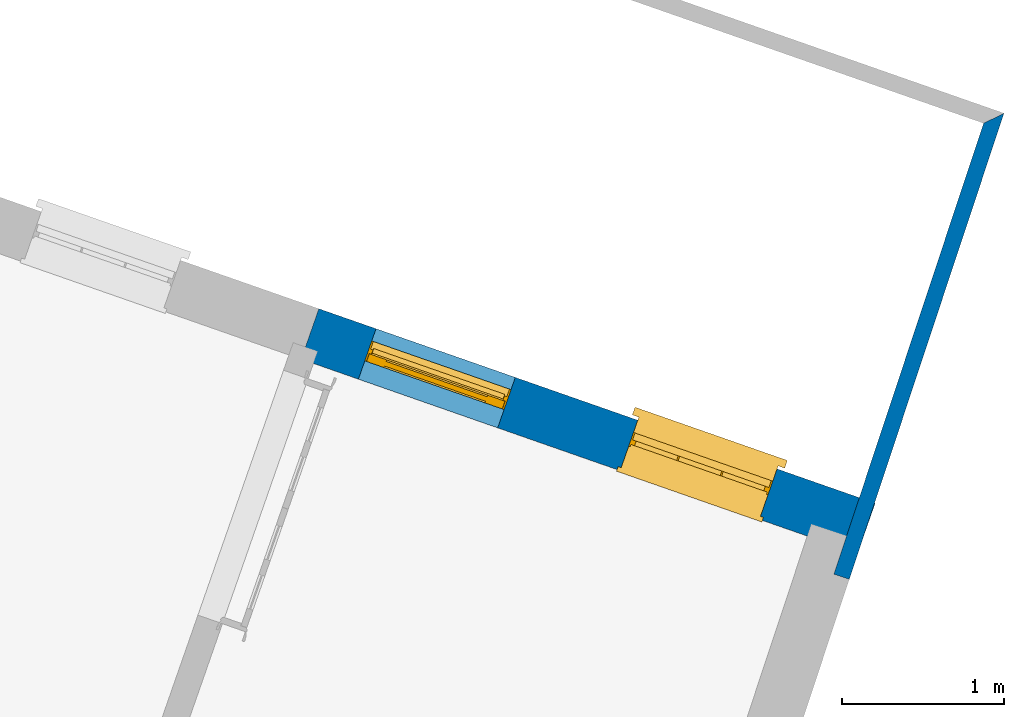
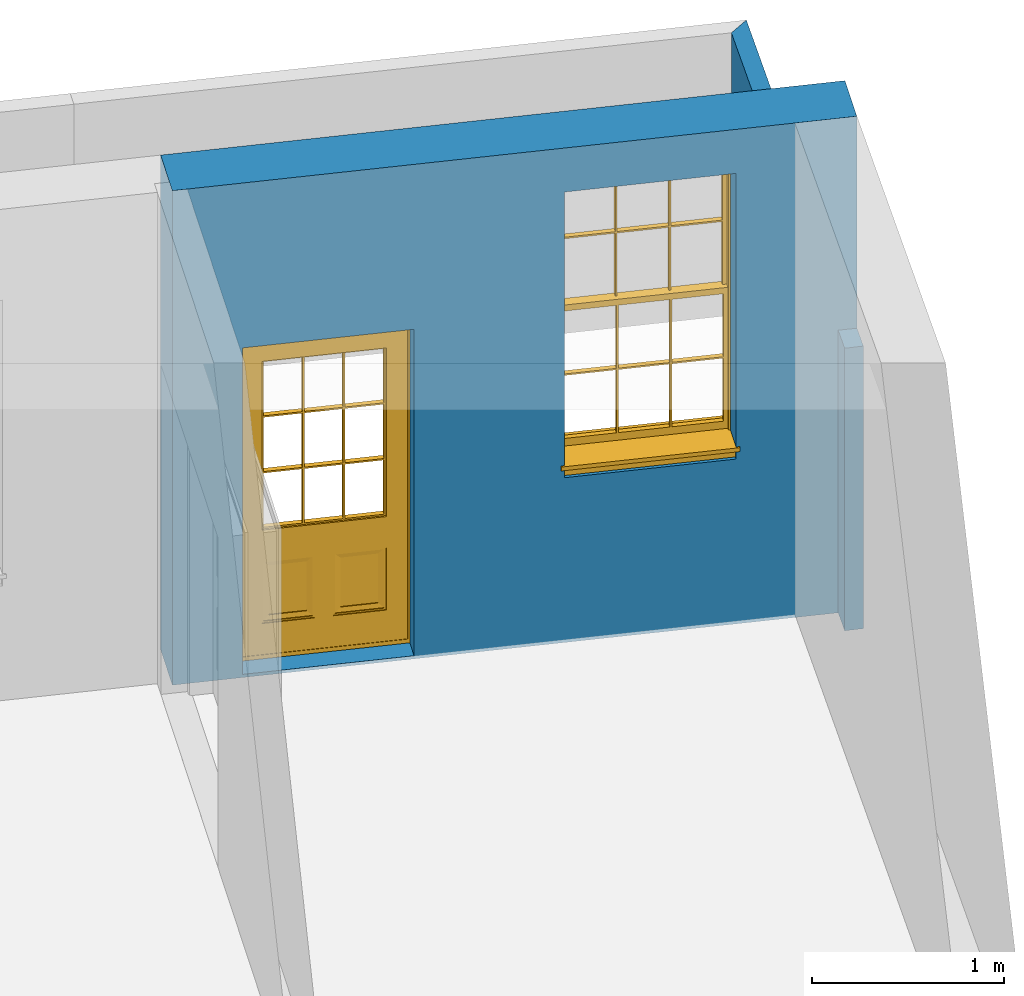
# One storey, part 5 of 10: 2 walls, 1 door, 1 window, 2 openings.
"""IFC4 building model written with IfcOpenShell, lengths in metres."""

from ifc_helpers import new_model, si_unit, frame, origin, origin_with_axes, place, context, subcontext, project, spatial, polyline, outline, extrude, faceted_brep, source, transform, mapped, material, layer, layer_set, layer_usage, type_object, type_shapes, element, fill, save


model = new_model("IFC4")

# Units and contexts
model_context = context("Model", 3, world=origin_with_axes())
body_context = subcontext(model_context, "Body", "Model", "MODEL_VIEW")
ifc_project = project(units=[si_unit("PLANEANGLEUNIT", "RADIAN"), si_unit("MASSUNIT", "GRAM", prefix="KILO"), si_unit("FORCEUNIT", "NEWTON", prefix="KILO"), si_unit("LENGTHUNIT", "METRE"), si_unit("AREAUNIT", "SQUARE_METRE"), si_unit("VOLUMEUNIT", "CUBIC_METRE")], contexts=[model_context, model_context])

# Sites, building, storey
site_1_placement = place(None, origin_with_axes())
site_1 = spatial("IfcSite", under=ifc_project, at=site_1_placement, Name="Tamar")
site_2_placement = place(site_1_placement, origin_with_axes())
site_2 = spatial("IfcSite", under=site_1, at=site_2_placement, Name="Site plot-15", CompositionType="ELEMENT")
building_placement = place(None, origin_with_axes())
building = spatial("IfcBuilding", under=site_2, at=building_placement, Name="Building plot-15", CompositionType="ELEMENT")
storey_placement = place(None, frame((0.0, 0.0, 26.8), z_axis=(0.0, 0.0, 1.0), x_axis=(1.0, 0.0, 0.0)))
storey = spatial("IfcBuildingStorey", under=building, at=storey_placement, Name="plot-15 0", CompositionType="ELEMENT", Elevation=26.8)

# Wall, openings, door, window
ifc_material_1 = material(Name="Masonry")
ifc_layer_1 = layer(ifc_material_1, 0.33, ventilated=False)
ifc_layer_set_1 = layer_set([ifc_layer_1], Name="exterior_0.08_0.25")
ifc_layer_usage_1 = layer_usage(ifc_layer_set_1, "AXIS2", "POSITIVE", -0.25)
wall_type_1 = type_object("IfcWallType", Name="exterior_0.08_0.25", PredefinedType="SOLIDWALL", material=ifc_layer_set_1)
wall_1_placement = place(storey_placement, frame((266.976352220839, 308.109572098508, 0.0), z_axis=(0.0, 0.0, 1.0), x_axis=(-0.943980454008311, 0.330001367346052, 0.0)))
wall_1 = element("IfcWall", 1, at=wall_1_placement, inside=storey, type_object=wall_type_1, material=ifc_layer_usage_1, Name="exterior", context=body_context, shape_type="SweptSolid", body=[
    extrude(outline(polyline([(-0.250000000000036, 0.0800000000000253), (-0.250000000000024, -0.250000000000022), (3.38517669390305, -0.250000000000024), (3.38517669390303, 0.0800000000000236), (-0.250000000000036, 0.0800000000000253)])), origin_with_axes(), (0.0, 0.0, 1.0), 3.15),
])
opening_1_placement = place(wall_1_placement, frame((0.391294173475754, 0.0, 1.05)))
opening_1 = element("IfcOpeningElement", 2, at=opening_1_placement, cuts=wall_1, Name="My Opening", ObjectType="Opening", context=body_context, shape_type="SweptSolid", body=[
    extrude(outline(polyline([(0.0, -0.270000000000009), (0.910000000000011, -0.270000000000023), (0.909999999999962, 1.09999999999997), (-4.87387907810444e-14, 1.09999999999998), (0.0, -0.270000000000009)])), origin_with_axes(), (0.0, 0.0, 1.0), 1.82),
])
opening_2_placement = place(wall_1_placement, frame((2.10129417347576, 0.0, 0.0199999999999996)))
opening_2 = element("IfcOpeningElement", 3, at=opening_2_placement, cuts=wall_1, Name="My Opening", ObjectType="Opening", context=body_context, shape_type="SweptSolid", body=[
    extrude(outline(polyline([(0.0, -0.270000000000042), (0.909999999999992, -0.270000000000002), (0.909999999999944, 1.09999999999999), (-4.88498130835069e-14, 1.09999999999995), (0.0, -0.270000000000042)])), origin_with_axes(), (0.0, 0.0, 1.0), 2.08),
])
door_type = type_object("IfcDoorType", Name="door_panelled", OperationType="SINGLE_SWING_LEFT", PredefinedType="NOTDEFINED")
shared_shape_1 = source(origin(), body_context, "Body", "Brep", [
    faceted_brep([(0.545, 0.195, 0.265), (0.745, 0.195, 0.265), (0.745, 0.2, 0.265), (0.545, 0.2, 0.265), (0.745, 0.2, 0.58), (0.545, 0.2, 0.58), (0.545, 0.195, 0.58), (0.515, 0.19, 0.235), (0.775, 0.19, 0.235), (0.745, 0.195, 0.58), (0.515, 0.19, 0.61), (0.515, 0.185, 0.235), (0.775, 0.185, 0.235), (0.775, 0.19, 0.61), (0.515, 0.185, 0.61), (0.785, 0.185, 0.225), (0.505, 0.185, 0.225), (0.775, 0.185, 0.61), (0.505, 0.185, 0.62), (0.785, 0.185, 0.62), (0.505, 0.18, 0.225), (0.785, 0.18, 0.225), (0.505, 0.18, 0.62), (0.785, 0.18, 0.62), (0.883, 0.18, 0.075), (0.898, 0.18, 0.075), (0.405, 0.18, 0.62), (0.405, 0.18, 0.225), (0.027, 0.18, 0.075), (0.785, 0.18, 0.82), (0.125, 0.18, 0.82), (0.405, 0.185, 0.62), (0.405, 0.185, 0.225), (0.898, 0.18, 2.068), (0.027, 0.17, 0.075), (0.883, 0.17, 0.075), (0.125, 0.18, 0.225), (0.012, 0.18, 0.075), (0.785, 0.19, 0.82), (0.125, 0.19, 0.82), (0.125, 0.18, 0.62), (0.125, 0.185, 0.62), (0.395, 0.185, 0.61), (0.395, 0.185, 0.235), (0.125, 0.185, 0.225), (0.785, 0.18, 1.895), (0.027, 0.14, 0.045), (0.883, 0.14, 0.045), (0.558333, 0.19, 0.83), (0.351667, 0.19, 0.83), (0.125, 0.18, 1.895), (0.125, 0.19, 1.895), (0.785, 0.19, 1.895), (0.012, 0.18, 2.068), (0.135, 0.185, 0.61), (0.395, 0.19, 0.61), (0.395, 0.19, 0.235), (0.135, 0.185, 0.235), (0.027, 0.14, 0.027), (0.883, 0.14, 0.027), (0.568333, 0.19, 0.83), (0.558333, 0.22, 0.83), (0.351667, 0.22, 0.83), (0.341667, 0.19, 0.83), (0.135, 0.19, 1.185), (0.135, 0.19, 1.53), (0.775, 0.19, 1.53), (0.775, 0.19, 1.185), (0.135, 0.19, 0.61), (0.365, 0.195, 0.58), (0.365, 0.195, 0.265), (0.135, 0.19, 0.235), (0.568333, 0.19, 1.175), (0.558333, 0.19, 1.175), (0.775, 0.19, 0.83), (0.558333, 0.22, 1.175), (0.785, 0.22, 0.82), (0.125, 0.22, 0.82), (0.351667, 0.22, 1.175), (0.351667, 0.19, 1.175), (0.341667, 0.19, 1.175), (0.135, 0.19, 0.83), (0.135, 0.19, 1.175), (0.135, 0.22, 1.185), (0.135, 0.22, 1.53), (0.135, 0.19, 1.54), (0.351667, 0.19, 1.885), (0.558333, 0.19, 1.885), (0.775, 0.22, 1.53), (0.775, 0.22, 1.185), (0.775, 0.19, 1.175), (0.775, 0.19, 1.54), (0.165, 0.195, 0.58), (0.365, 0.2, 0.58), (0.365, 0.2, 0.265), (0.165, 0.195, 0.265), (0.568333, 0.22, 0.83), (0.568333, 0.22, 1.175), (0.568333, 0.19, 1.185), (0.558333, 0.19, 1.185), (0.775, 0.22, 0.83), (0.785, 0.23, 0.82), (0.125, 0.23, 0.82), (0.341667, 0.22, 0.83), (0.341667, 0.22, 1.175), (0.351667, 0.19, 1.185), (0.341667, 0.19, 1.185), (0.135, 0.22, 0.83), (0.341667, 0.22, 1.185), (0.125, 0.22, 1.895), (0.341667, 0.22, 1.53), (0.341667, 0.19, 1.53), (0.135, 0.19, 1.885), (0.341667, 0.19, 1.54), (0.341667, 0.19, 1.885), (0.558333, 0.22, 1.885), (0.351667, 0.22, 1.885), (0.568333, 0.19, 1.885), (0.785, 0.22, 1.895), (0.568333, 0.22, 1.185), (0.568333, 0.19, 1.53), (0.568333, 0.22, 1.53), (0.568333, 0.19, 1.54), (0.775, 0.19, 1.885), (0.165, 0.2, 0.58), (0.165, 0.2, 0.265), (0.775, 0.22, 1.175), (0.558333, 0.19, 1.53), (0.351667, 0.22, 1.185), (0.558333, 0.22, 1.185), (0.505, 0.23, 0.62), (0.405, 0.23, 0.62), (0.125, 0.23, 1.895), (0.785, 0.23, 1.895), (0.351667, 0.19, 1.53), (0.135, 0.22, 1.175), (0.135, 0.22, 1.54), (0.341667, 0.22, 1.54), (0.135, 0.22, 1.885), (0.351667, 0.19, 1.54), (0.558333, 0.22, 1.54), (0.558333, 0.19, 1.54), (0.351667, 0.22, 1.54), (0.775, 0.22, 1.54), (0.568333, 0.22, 1.54), (0.775, 0.22, 1.885), (0.558333, 0.22, 1.53), (0.405, 0.23, 0.225), (0.505, 0.23, 0.225), (0.125, 0.23, 0.62), (0.785, 0.23, 0.62), (0.012, 0.23, 2.068), (0.898, 0.23, 2.068), (0.351667, 0.22, 1.53), (0.341667, 0.22, 1.885), (0.568333, 0.22, 1.885), (0.405, 0.225, 0.225), (0.405, 0.225, 0.62), (0.505, 0.225, 0.62), (0.505, 0.225, 0.225), (0.898, 0.23, 0.027), (0.012, 0.23, 0.027), (0.125, 0.225, 0.62), (0.785, 0.225, 0.62), (0.395, 0.225, 0.235), (0.395, 0.225, 0.61), (0.125, 0.23, 0.225), (0.125, 0.225, 0.225), (0.515, 0.225, 0.61), (0.515, 0.225, 0.235), (0.785, 0.23, 0.225), (0.785, 0.225, 0.225), (0.135, 0.225, 0.61), (0.775, 0.225, 0.61), (0.135, 0.225, 0.235), (0.395, 0.22, 0.235), (0.395, 0.22, 0.61), (0.515, 0.22, 0.61), (0.515, 0.22, 0.235), (0.775, 0.225, 0.235), (0.135, 0.22, 0.61), (0.775, 0.22, 0.61), (0.135, 0.22, 0.235), (0.365, 0.215, 0.265), (0.365, 0.215, 0.58), (0.545, 0.215, 0.58), (0.545, 0.215, 0.265), (0.775, 0.22, 0.235), (0.165, 0.215, 0.58), (0.745, 0.215, 0.58), (0.165, 0.215, 0.265), (0.365, 0.21, 0.58), (0.365, 0.21, 0.265), (0.545, 0.21, 0.58), (0.545, 0.21, 0.265), (0.745, 0.215, 0.265), (0.165, 0.21, 0.58), (0.745, 0.21, 0.58), (0.165, 0.21, 0.265), (0.745, 0.21, 0.265), (0.885, 0.178, 0.025), (0.025, 0.178, 0.025), (0.025, 0.15, 0.025), (0.885, 0.15, 0.025), (0.9, 0.23, 0.025), (0.01, 0.23, 0.025), (0.9, 0.178, 0.025), (0.91, 0.23, 0.0), (0.0, 0.23, 0.0), (0.01, 0.178, 0.025), (0.9, 0.178, 2.07), (0.9, 0.23, 2.07), (0.885, 0.178, 2.055), (0.91, 0.23, 2.08), (0.01, 0.23, 2.07), (0.0, 0.23, 2.08), (0.01, 0.178, 2.07), (0.025, 0.178, 2.055), (0.0, 0.1, 2.08), (0.91, 0.1, 2.08), (0.01, 0.1, 2.07), (0.9, 0.1, 2.07), (0.01, 0.15, 2.07), (0.9, 0.15, 2.07), (0.0, 0.1, 0.0), (0.91, 0.1, 0.0), (0.01, 0.1, 0.025), (0.9, 0.1, 0.025), (0.01, 0.15, 0.025), (0.025, 0.15, 2.055), (0.9, 0.15, 0.025), (0.885, 0.15, 2.055), (0.898, 0.18, 0.027), (0.012, 0.18, 0.027), (0.883, 0.18, 0.027), (0.027, 0.18, 0.027)], [[[0, 1, 2, 3]], [[2, 4, 5, 3]], [[0, 3, 5, 6]], [[1, 0, 7, 8]], [[9, 4, 2, 1]], [[9, 6, 5, 4]], [[0, 6, 10, 7]], [[8, 7, 11, 12]], [[8, 13, 9, 1]], [[13, 10, 6, 9]], [[7, 10, 14, 11]], [[15, 12, 11, 16]], [[12, 17, 13, 8]], [[17, 14, 10, 13]], [[18, 16, 11, 14]], [[15, 19, 17, 12]], [[15, 16, 20, 21]], [[14, 17, 19, 18]], [[16, 18, 22, 20]], [[21, 23, 19, 15]], [[24, 25, 21, 20]], [[23, 22, 18, 19]], [[20, 22, 26, 27]], [[23, 21, 25]], [[28, 24, 20, 27]], [[22, 23, 29]], [[29, 30, 26, 22]], [[27, 26, 31, 32]], [[23, 25, 33, 29]], [[34, 35, 24, 28]], [[28, 27, 36, 37]], [[38, 39, 30, 29]], [[26, 30, 40]], [[26, 40, 41, 31]], [[42, 43, 32, 31]], [[32, 44, 36, 27]], [[33, 45, 29]], [[46, 47, 35, 34]], [[36, 40, 37]], [[39, 38, 48, 49]], [[50, 30, 39, 51]], [[29, 45, 52, 38]], [[53, 37, 40, 30]], [[44, 41, 40, 36]], [[31, 41, 54, 42]], [[43, 42, 55, 56]], [[57, 44, 32, 43]], [[50, 45, 33, 53]], [[47, 46, 58, 59]], [[60, 48, 38]], [[49, 48, 61, 62]], [[49, 63, 39]], [[50, 53, 30]], [[51, 39, 64, 65]], [[45, 50, 51, 52]], [[66, 67, 38, 52]], [[57, 54, 41, 44]], [[42, 54, 68, 55]], [[56, 55, 69, 70]], [[56, 71, 57, 43]], [[60, 72, 73, 48]], [[60, 38, 74]], [[48, 73, 75, 61]], [[76, 77, 62, 61]], [[62, 78, 79, 49]], [[49, 79, 80, 63]], [[63, 81, 39]], [[82, 64, 39]], [[65, 64, 83, 84]], [[85, 51, 65]], [[52, 51, 86, 87]], [[88, 89, 67, 66]], [[90, 38, 67]], [[91, 66, 52]], [[71, 68, 54, 57]], [[55, 68, 92, 69]], [[69, 93, 94, 70]], [[70, 95, 71, 56]], [[96, 97, 72, 60]], [[73, 72, 98, 99]], [[74, 38, 90]], [[100, 96, 60, 74]], [[75, 73, 79, 78]], [[61, 75, 97, 96]], [[101, 102, 77, 76]], [[77, 103, 62]], [[96, 76, 61]], [[103, 104, 78, 62]], [[80, 79, 105, 106]], [[63, 80, 104, 103]], [[81, 63, 103, 107]], [[81, 82, 39]], [[106, 64, 82, 80]], [[106, 108, 83, 64]], [[84, 83, 77, 109]], [[110, 111, 65, 84]], [[112, 51, 85]], [[113, 85, 65, 111]], [[114, 86, 51]], [[115, 87, 86, 116]], [[117, 52, 87]], [[118, 76, 89, 88]], [[119, 98, 67, 89]], [[120, 121, 88, 66]], [[67, 98, 72, 90]], [[91, 122, 120, 66]], [[91, 52, 123]], [[95, 92, 68, 71]], [[69, 92, 124, 93]], [[94, 93, 124, 125]], [[94, 125, 95, 70]], [[72, 97, 126, 90]], [[127, 99, 98, 120]], [[99, 105, 79, 73]], [[74, 90, 126, 100]], [[96, 100, 76]], [[128, 129, 75, 78]], [[97, 75, 129, 119]], [[130, 131, 102, 101]], [[109, 77, 102, 132]], [[133, 101, 76, 118]], [[77, 107, 103]], [[78, 104, 108, 128]], [[111, 106, 105, 134]], [[104, 80, 82, 135]], [[107, 135, 82, 81]], [[110, 108, 106, 111]], [[104, 135, 83, 108]], [[83, 135, 77]], [[136, 84, 109]], [[110, 84, 136, 137]], [[114, 51, 112]], [[85, 136, 138, 112]], [[113, 137, 136, 85]], [[111, 134, 139, 113]], [[86, 114, 113, 139]], [[140, 141, 87, 115]], [[139, 142, 116, 86]], [[109, 118, 115, 116]], [[117, 123, 52]], [[117, 87, 141, 122]], [[126, 89, 76]], [[143, 118, 88]], [[120, 98, 119, 121]], [[119, 89, 126, 97]], [[144, 143, 88, 121]], [[144, 122, 91, 143]], [[127, 120, 122, 141]], [[143, 91, 123, 145]], [[124, 92, 95, 125]], [[146, 129, 99, 127]], [[99, 129, 128, 105]], [[100, 126, 76]], [[121, 119, 129, 146]], [[147, 131, 130, 148]], [[131, 149, 102]], [[130, 101, 150]], [[102, 151, 132]], [[118, 109, 132, 133]], [[101, 133, 152]], [[107, 77, 135]], [[153, 128, 108, 110]], [[134, 105, 128, 153]], [[109, 138, 136]], [[153, 110, 137, 142]], [[154, 114, 112, 138]], [[137, 113, 114, 154]], [[141, 139, 134, 127]], [[141, 140, 142, 139]], [[144, 140, 115, 155]], [[142, 137, 154, 116]], [[155, 115, 118]], [[116, 154, 109]], [[117, 155, 145, 123]], [[122, 144, 155, 117]], [[143, 145, 118]], [[121, 146, 140, 144]], [[146, 127, 134, 153]], [[156, 157, 131, 147]], [[148, 130, 158, 159]], [[148, 160, 161, 147]], [[157, 162, 149, 131]], [[161, 151, 102, 149]], [[101, 152, 160, 150]], [[163, 158, 130, 150]], [[151, 152, 133, 132]], [[154, 138, 109]], [[142, 140, 146, 153]], [[145, 155, 118]], [[157, 156, 164, 165]], [[147, 166, 167, 156]], [[168, 169, 159, 158]], [[170, 148, 159, 171]], [[148, 170, 160]], [[166, 147, 161]], [[172, 162, 157, 165]], [[166, 149, 162, 167]], [[166, 161, 149]], [[150, 160, 170]], [[163, 173, 168, 158]], [[171, 163, 150, 170]], [[174, 164, 156, 167]], [[175, 176, 165, 164]], [[169, 168, 177, 178]], [[171, 159, 169, 179]], [[167, 162, 172, 174]], [[176, 180, 172, 165]], [[179, 173, 163, 171]], [[181, 177, 168, 173]], [[164, 174, 182, 175]], [[183, 184, 176, 175]], [[178, 177, 185, 186]], [[179, 169, 178, 187]], [[174, 172, 180, 182]], [[184, 188, 180, 176]], [[187, 181, 173, 179]], [[189, 185, 177, 181]], [[175, 182, 190, 183]], [[191, 184, 183, 192]], [[185, 193, 194, 186]], [[187, 178, 186, 195]], [[182, 180, 188, 190]], [[191, 196, 188, 184]], [[195, 189, 181, 187]], [[197, 193, 185, 189]], [[183, 190, 198, 192]], [[198, 196, 191, 192]], [[194, 193, 197, 199]], [[195, 186, 194, 199]], [[188, 196, 198, 190]], [[197, 189, 195, 199]], [[200, 201, 202, 203]], [[201, 200, 204, 205]], [[206, 204, 200]], [[204, 207, 208, 205]], [[209, 201, 205]], [[210, 211, 204, 206]], [[206, 200, 212, 210]], [[211, 213, 207, 204]], [[214, 205, 208, 215]], [[216, 217, 201, 209]], [[205, 214, 216, 209]], [[216, 214, 211, 210]], [[210, 212, 217, 216]], [[214, 215, 213, 211]], [[218, 219, 213, 215]], [[219, 218, 220, 221]], [[221, 220, 222, 223]], [[215, 208, 224, 218]], [[225, 224, 208, 207]], [[224, 226, 220, 218]], [[224, 225, 227, 226]], [[219, 225, 207, 213]], [[228, 222, 220, 226]], [[219, 221, 227, 225]], [[226, 227, 203, 202]], [[202, 229, 222, 228]], [[228, 226, 202]], [[227, 221, 223, 230]], [[230, 203, 227]], [[217, 229, 202, 201]], [[231, 223, 222, 229]], [[230, 223, 231, 203]], [[231, 229, 217, 212]], [[212, 200, 203, 231]], [[33, 152, 151, 53]], [[25, 160, 152, 33]], [[161, 37, 53, 151]], [[232, 160, 25]], [[161, 233, 37]], [[160, 232, 234]], [[24, 234, 232, 25]], [[233, 161, 235]], [[37, 233, 235, 28]], [[161, 160, 234, 235]], [[35, 47, 234, 24]], [[28, 235, 46, 34]], [[58, 235, 234, 59]], [[59, 234, 47]], [[58, 46, 235]]]),
])
type_shapes(door_type, [shared_shape_1])
door_placement = place(storey_placement, frame((265.08187196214, 309.057876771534, 0.0199999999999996), z_axis=(0.0, 0.0, 1.0), x_axis=(-0.859022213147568, 0.300301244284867, 0.0)))
door = element("IfcDoor", 4, at=door_placement, inside=storey, type_object=door_type, Name="kitchen sahn door", OverallHeight=2.08, OverallWidth=0.91, context=body_context, shape_type="MappedRepresentation", body=[
    mapped(shared_shape_1, transform((0.0, 0.0, 0.0), scale=1.0)),
])
fill(opening_2, door)
window_type = type_object("IfcWindowType", Name="sash_big", PartitioningType="DOUBLE_PANEL_HORIZONTAL", PredefinedType="NOTDEFINED")
shared_shape_2 = source(origin(), body_context, "Body", "Brep", [
    faceted_brep([(0.033125, 0.145, 0.975209), (0.01, 0.145, 0.975209), (0.033125, 0.145, 1.376042), (0.876875, 0.145, 0.975209), (0.876875, 0.145, 1.376042), (0.9, 0.145, 0.975209), (0.876875, 0.145, 1.386042), (0.876875, 0.145, 1.786875), (0.9, 0.145, 1.81), (0.033125, 0.145, 1.786875), (0.033125, 0.145, 1.386042), (0.01, 0.145, 1.81), (0.876875, 0.115, 1.376042), (0.876875, 0.115, 0.975209), (0.9, 0.115, 0.937083), (0.033125, 0.115, 1.786875), (0.01, 0.115, 1.81), (0.033125, 0.115, 1.386042), (0.01, 0.115, 0.937083), (0.033125, 0.115, 0.975209), (0.033125, 0.115, 1.376042), (0.876875, 0.115, 1.786875), (0.876875, 0.115, 1.386042), (0.9, 0.115, 1.81), (0.033125, 0.145, 0.937083), (0.01, 0.145, 0.937083), (0.033125, 0.145, 0.53625), (0.876875, 0.145, 0.937083), (0.876875, 0.145, 0.53625), (0.9, 0.145, 0.937083), (0.876875, 0.145, 0.52625), (0.876875, 0.145, 0.125417), (0.9, 0.145, 0.077167), (0.033125, 0.145, 0.125417), (0.033125, 0.145, 0.52625), (0.01, 0.145, 0.077167), (-0.0425, 0.0, 0.01), (-0.0425, -0.05, 0.001667), (0.0, 0.0, 0.01), (0.9525, 0.0, 0.01), (0.91, 0.0, 0.01), (0.9525, -0.05, 0.001667), (-0.02, 0.33, 0.077167), (0.0, 0.33, 0.077167), (-0.02, 0.36, 0.077167), (0.0, 0.19, 0.077167), (0.01, 0.19, 0.077167), (0.91, 0.19, 0.077167), (0.91, 0.33, 0.077167), (0.9, 0.19, 0.077167), (0.93, 0.33, 0.077167), (0.93, 0.36, 0.077167), (0.01, 0.175, 0.975209), (0.9, 0.175, 0.975209), (0.876875, 0.175, 0.125417), (0.876875, 0.175, 0.52625), (0.9, 0.175, 0.077167), (0.876875, 0.175, 0.53625), (0.876875, 0.175, 0.937083), (0.033125, 0.175, 0.125417), (0.01, 0.175, 0.077167), (0.033125, 0.175, 0.52625), (0.033125, 0.175, 0.937083), (0.033125, 0.175, 0.53625), (-0.02, 0.33, 0.052167), (-0.02, 0.36, 0.052167), (0.93, 0.36, 0.052167), (0.93, 0.33, 0.052167), (0.91, 0.33, 0.052167), (0.0, 0.33, 0.052167), (0.91, 0.1, 0.026667), (0.0, 0.1, 0.026667), (-0.0425, -0.05, -0.123333), (0.9525, -0.05, -0.123333), (-0.0425, 0.0, -0.123333), (0.9525, 0.0, -0.123333), (0.01, 0.19, 1.81), (0.9, 0.19, 1.81), (0.0, 0.19, 1.82), (0.91, 0.19, 1.82), (0.01, 0.1, 0.077167), (0.9, 0.1, 0.077167), (0.592292, 0.145, 0.125417), (0.592292, 0.175, 0.125417), (0.317708, 0.175, 0.125417), (0.317708, 0.145, 0.125417), (0.592292, 0.145, 0.53625), (0.317708, 0.145, 0.53625), (0.317708, 0.145, 0.52625), (0.592292, 0.145, 0.52625), (0.592292, 0.175, 0.53625), (0.317708, 0.175, 0.53625), (0.592292, 0.115, 1.386042), (0.592292, 0.145, 1.386042), (0.317708, 0.145, 1.386042), (0.317708, 0.115, 1.386042), (0.317708, 0.115, 1.376042), (0.592292, 0.115, 1.376042), (0.317708, 0.145, 1.376042), (0.592292, 0.145, 1.376042), (0.602292, 0.115, 1.376042), (0.592292, 0.115, 0.975209), (0.602292, 0.115, 0.975209), (0.602292, 0.145, 0.975209), (0.592292, 0.145, 0.975209), (0.602292, 0.145, 1.376042), (0.602292, 0.175, 0.53625), (0.602292, 0.145, 0.53625), (0.317708, 0.175, 0.52625), (0.307708, 0.175, 0.125417), (0.307708, 0.175, 0.52625), (0.602292, 0.175, 0.52625), (0.602292, 0.175, 0.125417), (0.592292, 0.175, 0.52625), (0.307708, 0.175, 0.53625), (0.317708, 0.175, 0.937083), (0.307708, 0.175, 0.937083), (0.602292, 0.175, 0.937083), (0.592292, 0.175, 0.937083), (0.307708, 0.145, 0.52625), (0.307708, 0.145, 0.125417), (0.307708, 0.145, 0.53625), (0.307708, 0.145, 0.937083), (0.592292, 0.145, 0.937083), (0.317708, 0.145, 0.937083), (0.602292, 0.145, 0.937083), (0.602292, 0.145, 0.52625), (0.602292, 0.145, 0.125417), (0.307708, 0.115, 1.386042), (0.307708, 0.115, 1.376042), (0.307708, 0.115, 0.975209), (0.317708, 0.115, 0.975209), (0.317708, 0.115, 1.786875), (0.307708, 0.115, 1.786875), (0.602292, 0.115, 1.786875), (0.592292, 0.115, 1.786875), (0.602292, 0.115, 1.386042), (0.602292, 0.145, 1.386042), (0.307708, 0.145, 1.386042), (0.307708, 0.145, 1.786875), (0.317708, 0.145, 1.786875), (0.592292, 0.145, 1.786875), (0.602292, 0.145, 1.786875), (0.307708, 0.145, 1.376042), (0.317708, 0.145, 0.975209), (0.307708, 0.145, 0.975209), (0.91, 0.1, 1.82), (0.9, 0.1, 1.81), (0.01, 0.1, 1.81), (0.0, 0.1, 1.82), (0.91, 0.0, 0.0), (0.0, 0.0, 0.0), (0.91, 0.33, 0.0), (0.0, 0.33, 0.0)], [[[0, 1, 2]], [[3, 4, 5]], [[6, 7, 8]], [[9, 10, 11]], [[12, 13, 14]], [[15, 16, 17]], [[18, 19, 20]], [[21, 22, 23]], [[24, 25, 26]], [[27, 28, 29]], [[30, 31, 32]], [[33, 34, 35]], [[14, 27, 29]], [[25, 24, 18]], [[36, 37, 38]], [[39, 40, 41]], [[42, 43, 44]], [[45, 46, 43]], [[47, 48, 49]], [[50, 51, 48]], [[1, 0, 52]], [[5, 53, 3]], [[54, 55, 56]], [[57, 58, 53]], [[59, 60, 61]], [[62, 63, 52]], [[48, 43, 46, 49]], [[51, 44, 43, 48]], [[64, 42, 44, 65]], [[65, 44, 51, 66]], [[66, 51, 50, 67]], [[65, 66, 68, 69]], [[60, 56, 49, 46]], [[70, 71, 38, 40]], [[37, 41, 40, 38]], [[37, 72, 73, 41]], [[74, 75, 73, 72]], [[8, 11, 76, 77]], [[76, 78, 79, 77]], [[32, 35, 80, 81]], [[81, 80, 71, 70]], [[82, 83, 84, 85]], [[86, 87, 88, 89]], [[86, 90, 91, 87]], [[92, 93, 94, 95]], [[92, 95, 96, 97]], [[96, 98, 99, 97]], [[100, 97, 101, 102]], [[103, 104, 99, 105]], [[97, 99, 104, 101]], [[102, 103, 105, 100]], [[28, 57, 106, 107]], [[108, 84, 109, 110]], [[111, 112, 83, 113]], [[114, 110, 61, 63]], [[90, 113, 108, 91]], [[115, 91, 114, 116]], [[117, 106, 90, 118]], [[111, 106, 57, 55]], [[119, 110, 109, 120]], [[34, 61, 110, 119]], [[89, 113, 83, 82]], [[88, 108, 113, 89]], [[85, 84, 108, 88]], [[121, 114, 63, 26]], [[122, 116, 114, 121]], [[123, 118, 90, 86]], [[87, 91, 115, 124]], [[107, 106, 117, 125]], [[126, 111, 55, 30]], [[127, 112, 111, 126]], [[126, 30, 28, 107]], [[88, 119, 120, 85]], [[126, 89, 82, 127]], [[125, 123, 86, 107]], [[121, 26, 34, 119]], [[124, 122, 121, 87]], [[128, 17, 20, 129]], [[96, 129, 130, 131]], [[132, 133, 128, 95]], [[134, 135, 92, 136]], [[100, 12, 22, 136]], [[137, 6, 4, 105]], [[94, 138, 139, 140]], [[137, 93, 141, 142]], [[99, 98, 94, 93]], [[143, 2, 10, 138]], [[144, 145, 143, 98]], [[129, 143, 145, 130]], [[20, 2, 143, 129]], [[131, 144, 98, 96]], [[128, 138, 10, 17]], [[133, 139, 138, 128]], [[135, 141, 93, 92]], [[95, 94, 140, 132]], [[22, 6, 137, 136]], [[136, 137, 142, 134]], [[100, 105, 4, 12]], [[107, 86, 89, 126]], [[106, 111, 113, 90]], [[91, 108, 110, 114]], [[87, 121, 119, 88]], [[97, 100, 136, 92]], [[129, 96, 95, 128]], [[98, 143, 138, 94]], [[105, 99, 93, 137]], [[131, 101, 104, 144]], [[124, 115, 118, 123]], [[132, 140, 141, 135]], [[120, 109, 59, 33]], [[15, 9, 139, 133]], [[134, 142, 7, 21]], [[31, 54, 112, 127]], [[36, 74, 72, 37]], [[39, 41, 73, 75]], [[18, 14, 101, 131]], [[23, 16, 132, 135]], [[83, 56, 60, 84]], [[52, 53, 118, 115]], [[53, 52, 144, 104]], [[11, 8, 141, 140]], [[14, 18, 124, 123]], [[2, 1, 11, 10]], [[8, 5, 4, 6]], [[57, 53, 56, 55]], [[60, 52, 63, 61]], [[26, 25, 35, 34]], [[32, 29, 28, 30]], [[14, 23, 22, 12]], [[18, 20, 17, 16]], [[19, 0, 2, 20]], [[17, 10, 9, 15]], [[12, 4, 3, 13]], [[21, 7, 6, 22]], [[27, 58, 57, 28]], [[30, 55, 54, 31]], [[33, 59, 61, 34]], [[26, 63, 62, 24]], [[5, 8, 77, 53]], [[76, 11, 1, 52]], [[46, 45, 78, 76]], [[49, 77, 79, 47]], [[70, 146, 147, 81]], [[71, 80, 148, 149]], [[19, 130, 145, 0]], [[102, 13, 3, 103]], [[116, 122, 24, 62]], [[29, 32, 81, 14]], [[80, 35, 25, 18]], [[60, 46, 76, 52]], [[77, 49, 56, 53]], [[23, 14, 81, 147]], [[16, 148, 80, 18]], [[35, 85, 120]], [[120, 33, 35]], [[127, 82, 32]], [[32, 31, 127]], [[32, 82, 85, 35]], [[102, 101, 14]], [[14, 13, 102]], [[18, 131, 130]], [[130, 19, 18]], [[134, 21, 23]], [[23, 135, 134]], [[16, 15, 133]], [[133, 132, 16]], [[11, 140, 139]], [[139, 9, 11]], [[142, 141, 8]], [[8, 7, 142]], [[23, 147, 148, 16]], [[146, 149, 148, 147]], [[52, 115, 116]], [[116, 62, 52]], [[118, 53, 117]], [[58, 117, 53]], [[27, 125, 117, 58]], [[56, 83, 112]], [[112, 54, 56]], [[109, 84, 60]], [[60, 59, 109]], [[125, 27, 14]], [[14, 123, 125]], [[122, 124, 18]], [[18, 24, 122]], [[145, 144, 52]], [[52, 0, 145]], [[103, 3, 53]], [[53, 104, 103]], [[79, 78, 149, 146]], [[78, 45, 71, 149]], [[146, 70, 47, 79]], [[150, 75, 74, 151]], [[68, 66, 67]], [[48, 68, 67, 50]], [[69, 64, 65]], [[42, 64, 69, 43]], [[69, 68, 152, 153]], [[70, 68, 48, 47]], [[150, 152, 68, 70]], [[43, 69, 71, 45]], [[69, 153, 151, 71]], [[152, 150, 151, 153]], [[38, 151, 74, 36]], [[71, 151, 38]], [[39, 75, 150, 40]], [[40, 150, 70]]]),
])
type_shapes(window_type, [shared_shape_2])
window_placement = place(storey_placement, frame((266.696078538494, 308.493574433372, 1.05), z_axis=(0.0, 0.0, 1.0), x_axis=(-0.859022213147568, 0.300301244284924, 0.0)))
window = element("IfcWindow", 5, at=window_placement, inside=storey, type_object=window_type, Name="kitchen sahn window", OverallHeight=1.82, OverallWidth=0.91, context=body_context, shape_type="MappedRepresentation", body=[
    mapped(shared_shape_2, transform((0.0, 0.0, 0.0), scale=1.0)),
])
fill(opening_1, window)

# Wall
ifc_material_2 = material(Name="Masonry")
ifc_layer_2 = layer(ifc_material_2, 0.1, ventilated=False)
ifc_layer_set_2 = layer_set([ifc_layer_2], Name="fence_-0.15_0.25")
ifc_layer_usage_2 = layer_usage(ifc_layer_set_2, "AXIS2", "POSITIVE", -0.25)
wall_type_2 = type_object("IfcWallType", Name="fence_-0.15_0.25", PredefinedType="SOLIDWALL", material=ifc_layer_set_2)
wall_2_placement = place(storey_placement, frame((266.976352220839, 308.109572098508, 0.0), z_axis=(0.0, 0.0, 1.0), x_axis=(0.315038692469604, 0.949078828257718, 0.0)))
element("IfcWall", 6, at=wall_2_placement, inside=storey, type_object=wall_type_2, material=ifc_layer_usage_2, Name="fence", context=body_context, shape_type="SweptSolid", body=[
    extrude(outline(polyline([(-0.250000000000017, -0.149999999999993), (-0.250000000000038, -0.250000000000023), (2.77893693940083, -0.250000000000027), (2.68050533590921, -0.149999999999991), (-0.250000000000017, -0.149999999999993)])), origin_with_axes(), (0.0, 0.0, 1.0), 1.8),
])

save(model, "model.ifc")
